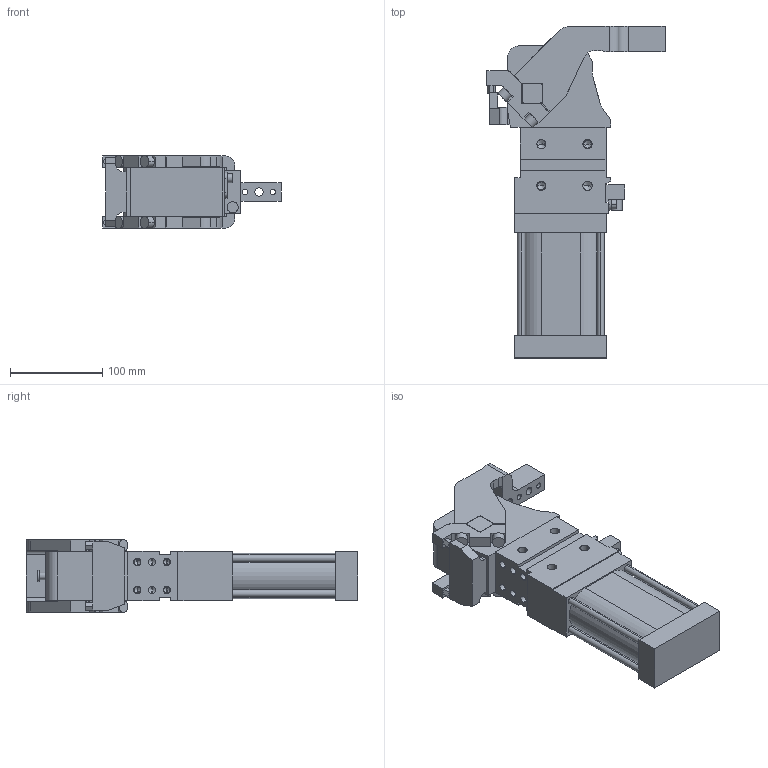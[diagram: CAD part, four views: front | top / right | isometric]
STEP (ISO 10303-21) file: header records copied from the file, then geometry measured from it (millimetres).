
FILE_DESCRIPTION (( 'STEP AP214' ), '1' );
FILE_NAME ('cpl63tv3csi1g_26.STEP', '2023-01-26T11:02:07', ( '' ), ( '' ), 'SwSTEP 2.0', 'SolidWorks 2022', '' );
FILE_SCHEMA (( 'AUTOMOTIVE_DESIGN' ));
Length unit declared in the file: millimetre
Products named in the file (4): blocchetto_VEP_0; meccanica_cpl_63_tassello_esterno; leva_v3cs_cpl63t; cpl63tv3csi1g_26
Assembly tree (3 placements, depth 2):
  cpl63tv3csi1g_26
    meccanica_cpl_63_tassello_esterno
    blocchetto_VEP_0
    leva_v3cs_cpl63t
Bounding box: 193 x 359.5 x 79 mm (x, y, z)
Volume: 1842961 mm3; surface area: 202301.5 mm2
Topology: 3 solids, 3 shells, 435 faces, 1148 edges, 713 vertices
Faces by surface type: plane 231, cylinder 154, cone 50
Entity records: 14692 total; most frequent: CARTESIAN_POINT 2332, DIRECTION 2318, ORIENTED_EDGE 2204, EDGE_CURVE 1102, AXIS2_PLACEMENT_3D 781, LINE 756, VECTOR 756, VERTEX_POINT 713
